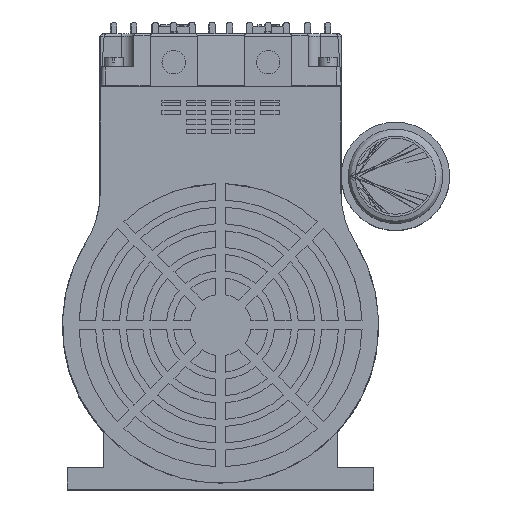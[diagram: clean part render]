
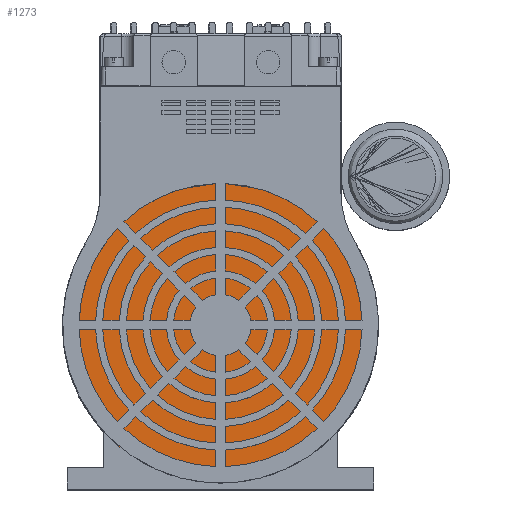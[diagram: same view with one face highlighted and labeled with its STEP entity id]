
A CAD part, top view. The second image highlights one B-rep face of the part: STEP entity #1273.
In plain terms, the highlighted planar face has unit normal (0, 0, 1).
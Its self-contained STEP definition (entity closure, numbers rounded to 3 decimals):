
#1273=ADVANCED_FACE('',(#3732),#3733,.F.);
#3732=FACE_OUTER_BOUND('',#7503,.T.);
#3733=PLANE('',#7504);
#7503=EDGE_LOOP('',(#14952));
#7504=AXIS2_PLACEMENT_3D('',#14953,#14954,#14955);
#14952=ORIENTED_EDGE('',*,*,#25691,.F.);
#14953=CARTESIAN_POINT('',(57.412,2.371,0.));
#14954=DIRECTION('',(0.0,0.0,-1.0));
#14955=DIRECTION('',(-1.0,0.0,0.0));
#25691=EDGE_CURVE('',#31291,#31291,#31292,.F.);
#31291=VERTEX_POINT('',#40095);
#31292=CIRCLE('',#40096,67.0);
#40095=CARTESIAN_POINT('',(58.245,-46.063,0.));
#40096=AXIS2_PLACEMENT_3D('',#49547,#49548,#49549);
#49547=CARTESIAN_POINT('',(-8.755,-46.063,0.));
#49548=DIRECTION('',(0.0,0.0,1.0));
#49549=DIRECTION('',(1.0,0.0,0.0));
